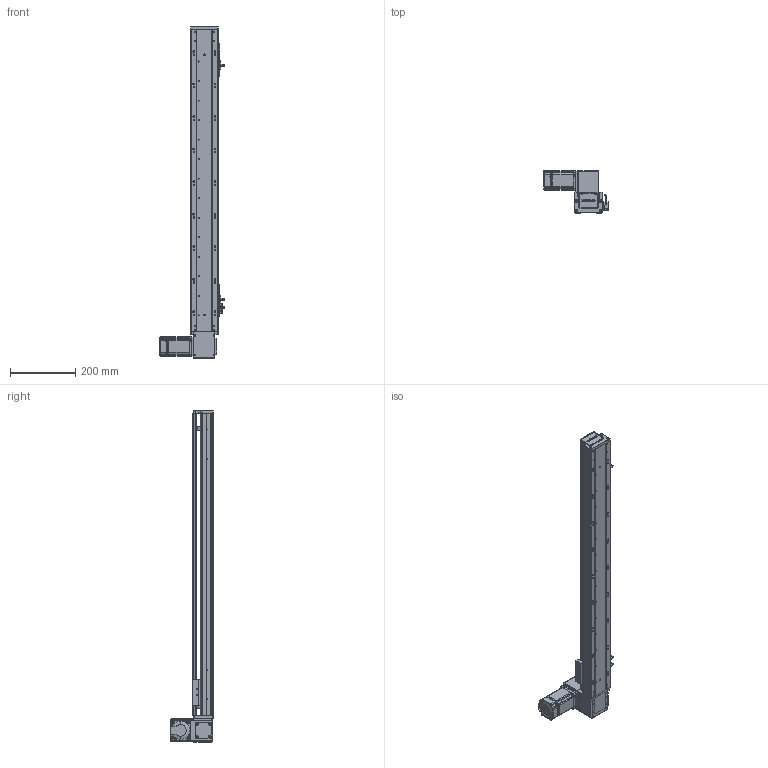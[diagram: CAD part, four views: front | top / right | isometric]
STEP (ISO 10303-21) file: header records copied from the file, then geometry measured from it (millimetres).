
FILE_DESCRIPTION (( 'STEP AP203' ), '1' );
FILE_NAME ('RY80-T-300-UL.SLDASM_750.step', '2021-03-01T02:16:51', ( '盈信电脑' ), ( '东莞市道滘镇水果街19号' ), 'SwSTEP 2.0', 'SolidWorks 2012', '' );
FILE_SCHEMA (( 'CONFIG_CONTROL_DESIGN' ));
Products named in the file (19): RY80-T-300-UL.SLDASM_750; RY80-T-M4蹟翐2; RY80-T-上下折同步轮盖板; RY80-T翋肮祭謫裔啣; RY80-T肮祭謫奻殏俋欶; 滅袉蝶18-10; 1; RY80-T肮祭湍揤輸1; RY80-T粣創揤踡輸; RY80-T肮祭湍揤輸2; RY80-T萇儂假蚾啣; 672嫖萇羲壽假蚾釱; RY80俋离覜茼え; RY80-T-翋肮祭謫釱; 覜茼ん672; RY80-T綴裔啣; RY80-T-300-UL倰第奻裔啣_750; RY80-T肮祭謫臏賑輸; RY80-T-300-UL倰第菁釱_750
Assembly tree (24 placements, depth 2):
  RY80-T-300-UL.SLDASM_750
    RY80-T-300-UL倰第菁釱_750
    RY80-T肮祭謫臏賑輸
    RY80-T-300-UL倰第奻裔啣_750
    RY80-T綴裔啣
    672嫖萇羲壽假蚾釱  x2
    覜茼ん672  x3
    RY80俋离覜茼え
    RY80-T-翋肮祭謫釱
    RY80-T肮祭湍揤輸1
    RY80-T肮祭湍揤輸2
    RY80-T萇儂假蚾啣
    RY80-T粣創揤踡輸  x2
    滅袉蝶18-10  x2
    RY80-T翋肮祭謫裔啣
    1
    RY80-T肮祭謫奻殏俋欶
    RY80-T-M4蹟翐2  x2
    RY80-T-上下折同步轮盖板
Bounding box: 198.7 x 130.5 x 1020 mm (x, y, z)
Volume: 1866199.9 mm3; surface area: 773222.8 mm2
Topology: 24 solids, 24 shells, 2573 faces, 7098 edges, 4609 vertices
Faces by surface type: plane 1362, cylinder 1004, cone 151, bspline 56
Entity records: 81175 total; most frequent: CARTESIAN_POINT 20210, ORIENTED_EDGE 12580, DIRECTION 11728, EDGE_CURVE 6290, VERTEX_POINT 4130, AXIS2_PLACEMENT_3D 3956, LINE 3816, VECTOR 3816
